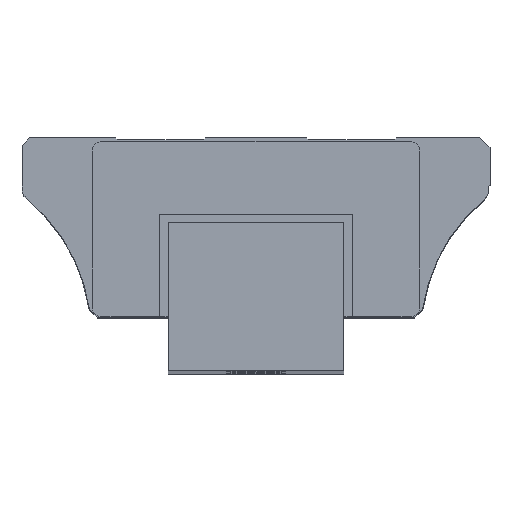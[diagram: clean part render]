
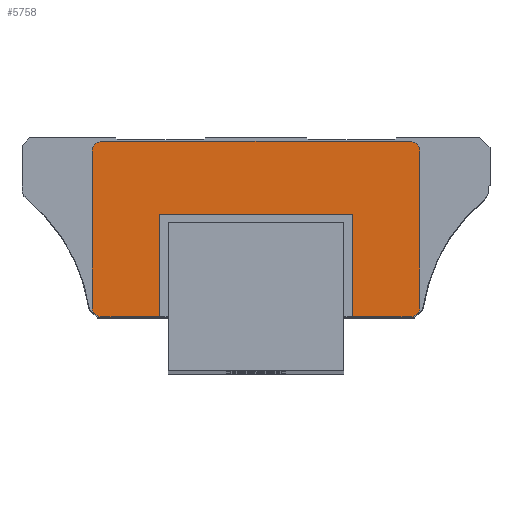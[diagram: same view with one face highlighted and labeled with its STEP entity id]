
A CAD part, top view. The second image highlights one B-rep face of the part: STEP entity #5758.
In plain terms, the highlighted planar face has unit normal (0, 0, 1).
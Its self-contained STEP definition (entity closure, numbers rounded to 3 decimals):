
#5232=CARTESIAN_POINT('',(47.3,14.05,364.1));
#5233=VERTEX_POINT('',#5232);
#5234=CARTESIAN_POINT('',(47.3,40.3,364.1));
#5235=VERTEX_POINT('',#5234);
#5236=CARTESIAN_POINT('',(47.3,14.05,364.1));
#5237=DIRECTION('',(0.0,1.0,0.0));
#5238=VECTOR('',#5237,1.0);
#5239=LINE('',#5236,#5238);
#5240=EDGE_CURVE('',#5233,#5235,#5239,.T.);
#5272=CARTESIAN_POINT('',(-2.3,40.3,364.1));
#5273=VERTEX_POINT('',#5272);
#5274=CARTESIAN_POINT('',(47.3,40.3,364.1));
#5275=DIRECTION('',(-1.0,0.0,0.0));
#5276=VECTOR('',#5275,1.0);
#5277=LINE('',#5274,#5276);
#5278=EDGE_CURVE('',#5235,#5273,#5277,.T.);
#5405=CARTESIAN_POINT('',(-2.3,14.05,364.1));
#5406=VERTEX_POINT('',#5405);
#5407=CARTESIAN_POINT('',(-2.3,40.3,364.1));
#5408=DIRECTION('',(0.0,-1.0,0.0));
#5409=VECTOR('',#5408,1.0);
#5410=LINE('',#5407,#5409);
#5411=EDGE_CURVE('',#5273,#5406,#5410,.T.);
#5462=CARTESIAN_POINT('',(62.,59.05,364.1));
#5463=VERTEX_POINT('',#5462);
#5464=CARTESIAN_POINT('',(64.5,56.55,364.1));
#5465=VERTEX_POINT('',#5464);
#5466=CARTESIAN_POINT('',(62.,56.55,364.1));
#5467=DIRECTION('',(0.0,0.0,-1.0));
#5468=DIRECTION('',(0.0,1.0,0.0));
#5469=AXIS2_PLACEMENT_3D('',#5466,#5467,#5468);
#5470=CIRCLE('',#5469,2.5);
#5471=EDGE_CURVE('',#5463,#5465,#5470,.T.);
#5504=CARTESIAN_POINT('',(64.5,16.55,364.1));
#5505=VERTEX_POINT('',#5504);
#5506=CARTESIAN_POINT('',(64.5,56.55,364.1));
#5507=DIRECTION('',(0.0,-1.0,0.0));
#5508=VECTOR('',#5507,1.0);
#5509=LINE('',#5506,#5508);
#5510=EDGE_CURVE('',#5465,#5505,#5509,.T.);
#5535=CARTESIAN_POINT('',(62.,14.05,364.1));
#5536=VERTEX_POINT('',#5535);
#5537=CARTESIAN_POINT('',(62.,16.55,364.1));
#5538=DIRECTION('',(0.0,0.0,-1.0));
#5539=DIRECTION('',(1.0,0.0,0.0));
#5540=AXIS2_PLACEMENT_3D('',#5537,#5538,#5539);
#5541=CIRCLE('',#5540,2.5);
#5542=EDGE_CURVE('',#5505,#5536,#5541,.T.);
#5568=CARTESIAN_POINT('',(62.,14.05,364.1));
#5569=DIRECTION('',(-1.0,0.0,0.0));
#5570=VECTOR('',#5569,1.0);
#5571=LINE('',#5568,#5570);
#5572=EDGE_CURVE('',#5536,#5233,#5571,.T.);
#5592=CARTESIAN_POINT('',(-17.,14.05,364.1));
#5593=VERTEX_POINT('',#5592);
#5594=CARTESIAN_POINT('',(-2.3,14.05,364.1));
#5595=DIRECTION('',(-1.0,0.0,0.0));
#5596=VECTOR('',#5595,1.0);
#5597=LINE('',#5594,#5596);
#5598=EDGE_CURVE('',#5406,#5593,#5597,.T.);
#5625=CARTESIAN_POINT('',(-19.5,16.55,364.1));
#5626=VERTEX_POINT('',#5625);
#5627=CARTESIAN_POINT('',(-17.,16.55,364.1));
#5628=DIRECTION('',(0.,0.,-1.0));
#5629=DIRECTION('',(0.,-1.0,0.));
#5630=AXIS2_PLACEMENT_3D('',#5627,#5628,#5629);
#5631=CIRCLE('',#5630,2.5);
#5632=EDGE_CURVE('',#5593,#5626,#5631,.T.);
#5658=CARTESIAN_POINT('',(-19.5,56.55,364.1));
#5659=VERTEX_POINT('',#5658);
#5660=CARTESIAN_POINT('',(-19.5,16.55,364.1));
#5661=DIRECTION('',(0.0,1.0,0.0));
#5662=VECTOR('',#5661,1.0);
#5663=LINE('',#5660,#5662);
#5664=EDGE_CURVE('',#5626,#5659,#5663,.T.);
#5689=CARTESIAN_POINT('',(-17.,59.05,364.1));
#5690=VERTEX_POINT('',#5689);
#5691=CARTESIAN_POINT('',(-17.,56.55,364.1));
#5692=DIRECTION('',(0.0,0.0,-1.0));
#5693=DIRECTION('',(-1.0,0.,0.0));
#5694=AXIS2_PLACEMENT_3D('',#5691,#5692,#5693);
#5695=CIRCLE('',#5694,2.5);
#5696=EDGE_CURVE('',#5659,#5690,#5695,.T.);
#5722=CARTESIAN_POINT('',(-17.,59.05,364.1));
#5723=DIRECTION('',(1.0,0.0,0.0));
#5724=VECTOR('',#5723,1.0);
#5725=LINE('',#5722,#5724);
#5726=EDGE_CURVE('',#5690,#5463,#5725,.T.);
#5739=CARTESIAN_POINT('',(-23.7,11.8,364.1));
#5740=DIRECTION('',(0.0,0.0,1.0));
#5741=DIRECTION('',(1.0,0.0,0.0));
#5742=AXIS2_PLACEMENT_3D('',#5739,#5740,#5741);
#5743=PLANE('',#5742);
#5744=ORIENTED_EDGE('',*,*,#5471,.F.);
#5745=ORIENTED_EDGE('',*,*,#5726,.F.);
#5746=ORIENTED_EDGE('',*,*,#5696,.F.);
#5747=ORIENTED_EDGE('',*,*,#5664,.F.);
#5748=ORIENTED_EDGE('',*,*,#5632,.F.);
#5749=ORIENTED_EDGE('',*,*,#5598,.F.);
#5750=ORIENTED_EDGE('',*,*,#5411,.F.);
#5751=ORIENTED_EDGE('',*,*,#5278,.F.);
#5752=ORIENTED_EDGE('',*,*,#5240,.F.);
#5753=ORIENTED_EDGE('',*,*,#5572,.F.);
#5754=ORIENTED_EDGE('',*,*,#5542,.F.);
#5755=ORIENTED_EDGE('',*,*,#5510,.F.);
#5756=EDGE_LOOP('',(#5744,#5745,#5746,#5747,#5748,#5749,#5750,#5751,#5752,#5753,#5754,#5755));
#5757=FACE_OUTER_BOUND('',#5756,.T.);
#5758=ADVANCED_FACE('',(#5757),#5743,.T.);
